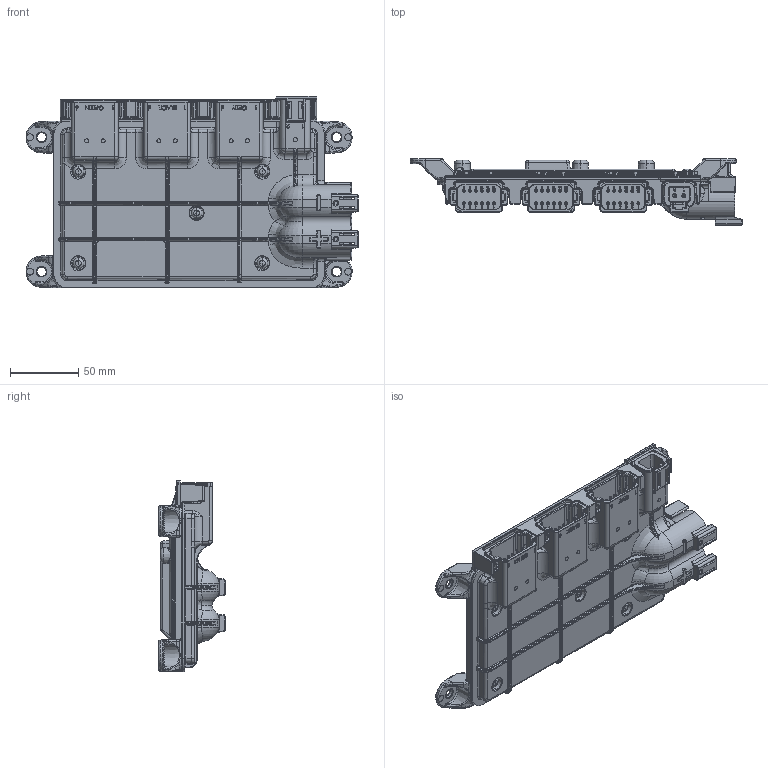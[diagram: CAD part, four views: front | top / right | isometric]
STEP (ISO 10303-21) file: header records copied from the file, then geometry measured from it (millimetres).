
FILE_DESCRIPTION (( 'STEP AP214' ), '1' );
FILE_NAME ('PDM-STEP.STEP', '2018-10-30T14:49:04', ( '' ), ( '' ), 'SwSTEP 2.0', 'SolidWorks 2016', '' );
FILE_SCHEMA (( 'AUTOMOTIVE_DESIGN' ));
Length unit declared in the file: millimetre
Products named in the file (1): PDM-STEP
Bounding box: 243.69 x 48.61 x 140.69 mm (x, y, z)
Volume: 525011.1 mm3; surface area: 115617.7 mm2
Topology: 1 solids, 1 shells, 4981 faces, 12544 edges, 7624 vertices
Faces by surface type: plane 1663, bspline 1359, cylinder 1203, torus 327, cone 296, sphere 133
Entity records: 280481 total; most frequent: CARTESIAN_POINT 119102, ORIENTED_EDGE 24822, DIRECTION 18231, EDGE_CURVE 12411, VERTEX_POINT 7622, AXIS2_PLACEMENT_3D 6174, LINE 5883, VECTOR 5883
